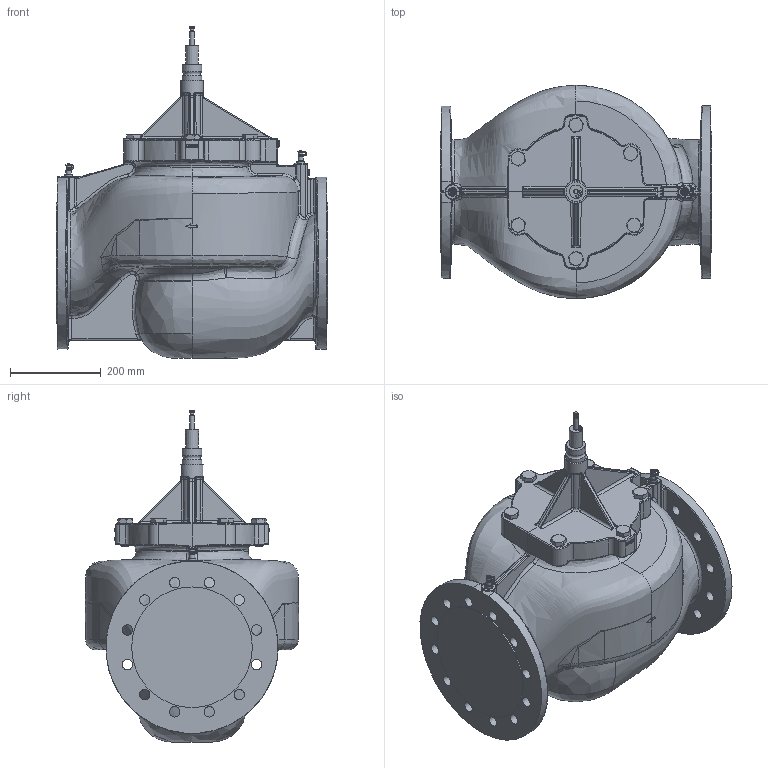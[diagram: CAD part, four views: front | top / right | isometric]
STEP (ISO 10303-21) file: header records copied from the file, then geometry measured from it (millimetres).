
FILE_DESCRIPTION(/* description */ ('Dansk beskrivelse'),/* implementation_level */ '2;1');
FILE_NAME(/* name */ 'C:\Users\jjo\Desktop\Siemens VPF43-53.stp',/* time_stamp */ '2019-06-25T12:01:05+02:00',/* author */ ('jjo'),/* organization */ (''),/* preprocessor_version */ 'ST-DEVELOPER v17.2',/* originating_system */ 'Autodesk Inventor 2019',/* authorisation */ '0 mm^3');
FILE_SCHEMA (('AUTOMOTIVE_DESIGN { 1 0 10303 214 3 1 1 }'));
Products named in the file (1): 53-4003_Shrinkwrap_1
Bounding box: 600 x 472 x 732.5 mm (x, y, z)
Volume: 64112984.5 mm3; surface area: 1493793.9 mm2
Topology: 1 solids, 1 shells, 1414 faces, 3640 edges, 2253 vertices
Faces by surface type: bspline 555, plane 416, cylinder 323, cone 78, sphere 26, torus 16
Full cylindrical faces by diameter (mm): 2 x2, 2.9 x2, 5 x2, 7 x1, 8.3 x2, 8.8 x1, 9.728 x2, 10 x2, 10.2 x1, 11 x2, 11.5 x2, 12 x4, 13.4 x1, 14 x2, 15 x1, 17 x2, 17.294 x3, 19 x2, 20 x8, 23 x30, 28.2 x6, 44 x2, 50 x1, 266 x2, 380 x1
Entity records: 101621 total; most frequent: CARTESIAN_POINT 68560, ORIENTED_EDGE 7206, DIRECTION 5584, EDGE_CURVE 3603, VERTEX_POINT 2256, AXIS2_PLACEMENT_3D 2186, EDGE_LOOP 1550, STYLED_ITEM 1415
